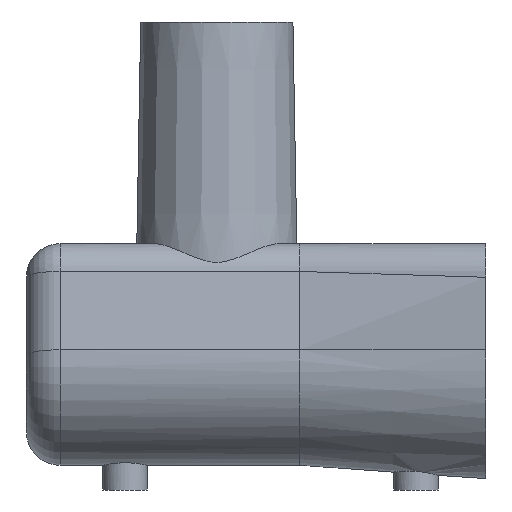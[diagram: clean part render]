
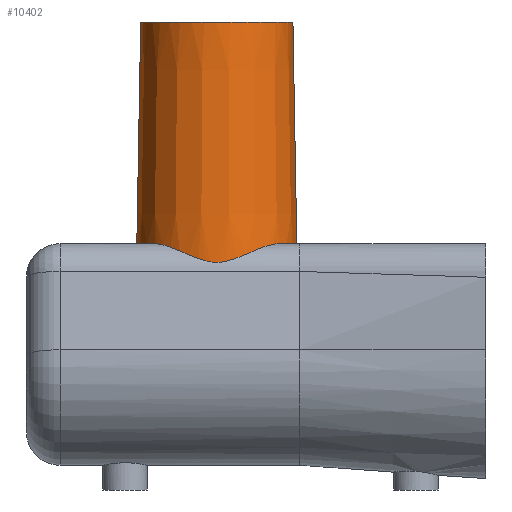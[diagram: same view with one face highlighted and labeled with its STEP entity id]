
A CAD part, left-side view. The second image highlights one B-rep face of the part: STEP entity #10402.
In plain terms, the highlighted conical face has half-angle 1 degrees and reference radius 3.4 mm.
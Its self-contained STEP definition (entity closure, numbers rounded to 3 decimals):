
#21=CONICAL_SURFACE('',#11029,3.4,0.017);
#254=B_SPLINE_CURVE_WITH_KNOTS('',3,(#17622,#17623,#17624,#17625,#17626,
#17627,#17628,#17629,#17630,#17631),.UNSPECIFIED.,.F.,.F.,(4,1,1,1,1,1,
1,4),(0.002,0.003,0.004,0.005,
0.006,0.007,0.008,0.008),
 .UNSPECIFIED.);
#257=B_SPLINE_CURVE_WITH_KNOTS('',3,(#17817,#17818,#17819,#17820,#17821,
#17822,#17823,#17824,#17825,#17826),.UNSPECIFIED.,.F.,.F.,(4,1,1,1,1,1,
1,4),(0.005,0.005,0.006,0.007,
0.008,0.009,0.01,0.011),
 .UNSPECIFIED.);
#2874=ORIENTED_EDGE('',*,*,#5852,.T.);
#2875=ORIENTED_EDGE('',*,*,#5839,.F.);
#2876=ORIENTED_EDGE('',*,*,#5846,.F.);
#2877=ORIENTED_EDGE('',*,*,#5849,.F.);
#2878=ORIENTED_EDGE('',*,*,#5847,.F.);
#5839=EDGE_CURVE('',#7381,#7382,#254,.T.);
#5846=EDGE_CURVE('',#7384,#7381,#8365,.T.);
#5847=EDGE_CURVE('',#7382,#7385,#8366,.T.);
#5849=EDGE_CURVE('',#7385,#7384,#257,.T.);
#5852=EDGE_CURVE('',#7388,#7388,#8368,.T.);
#7381=VERTEX_POINT('',#17621);
#7382=VERTEX_POINT('',#17632);
#7384=VERTEX_POINT('',#17810);
#7385=VERTEX_POINT('',#17814);
#7388=VERTEX_POINT('',#17834);
#8365=CIRCLE('',#11023,3.573);
#8366=CIRCLE('',#11025,3.573);
#8368=CIRCLE('',#11030,3.4);
#8777=EDGE_LOOP('',(#2874));
#8778=EDGE_LOOP('',(#2875,#2876,#2877,#2878));
#9447=FACE_BOUND('',#8777,.T.);
#9448=FACE_BOUND('',#8778,.T.);
#10402=ADVANCED_FACE('',(#9447,#9448),#21,.T.);
#11023=AXIS2_PLACEMENT_3D('',#17811,#12115,#12116);
#11025=AXIS2_PLACEMENT_3D('',#17813,#12119,#12120);
#11029=AXIS2_PLACEMENT_3D('',#17832,#12129,#12130);
#11030=AXIS2_PLACEMENT_3D('',#17833,#12131,#12132);
#12115=DIRECTION('',(0.,0.,-1.));
#12116=DIRECTION('',(-1.,0.,0.));
#12119=DIRECTION('',(0.,0.,-1.));
#12120=DIRECTION('',(-1.,0.,0.));
#12129=DIRECTION('',(0.,0.,-1.));
#12130=DIRECTION('',(1.,0.,0.));
#12131=DIRECTION('',(0.,0.,-1.));
#12132=DIRECTION('',(-1.,0.,0.));
#17621=CARTESIAN_POINT('',(-2.241,0.917,5.5));
#17622=CARTESIAN_POINT('',(-2.241,0.917,5.5));
#17623=CARTESIAN_POINT('',(-2.673,1.265,5.5));
#17624=CARTESIAN_POINT('',(-3.177,1.923,5.236));
#17625=CARTESIAN_POINT('',(-3.519,2.879,4.809));
#17626=CARTESIAN_POINT('',(-3.622,3.705,4.586));
#17627=CARTESIAN_POINT('',(-3.518,4.524,4.81));
#17628=CARTESIAN_POINT('',(-3.26,5.242,5.132));
#17629=CARTESIAN_POINT('',(-2.847,5.912,5.407));
#17630=CARTESIAN_POINT('',(-2.457,6.309,5.5));
#17631=CARTESIAN_POINT('',(-2.241,6.483,5.5));
#17632=CARTESIAN_POINT('',(-2.241,6.483,5.5));
#17810=CARTESIAN_POINT('',(2.241,0.917,5.5));
#17811=CARTESIAN_POINT('',(0.,3.7,5.5));
#17813=CARTESIAN_POINT('',(0.,3.7,5.5));
#17814=CARTESIAN_POINT('',(2.241,6.483,5.5));
#17817=CARTESIAN_POINT('',(2.241,6.483,5.5));
#17818=CARTESIAN_POINT('',(2.459,6.307,5.5));
#17819=CARTESIAN_POINT('',(2.845,5.913,5.407));
#17820=CARTESIAN_POINT('',(3.259,5.244,5.133));
#17821=CARTESIAN_POINT('',(3.519,4.523,4.81));
#17822=CARTESIAN_POINT('',(3.622,3.706,4.586));
#17823=CARTESIAN_POINT('',(3.519,2.879,4.809));
#17824=CARTESIAN_POINT('',(3.178,1.925,5.236));
#17825=CARTESIAN_POINT('',(2.672,1.265,5.5));
#17826=CARTESIAN_POINT('',(2.241,0.917,5.5));
#17832=CARTESIAN_POINT('',(0.,3.7,15.4));
#17833=CARTESIAN_POINT('',(0.,3.7,15.4));
#17834=CARTESIAN_POINT('',(-3.4,3.7,15.4));
